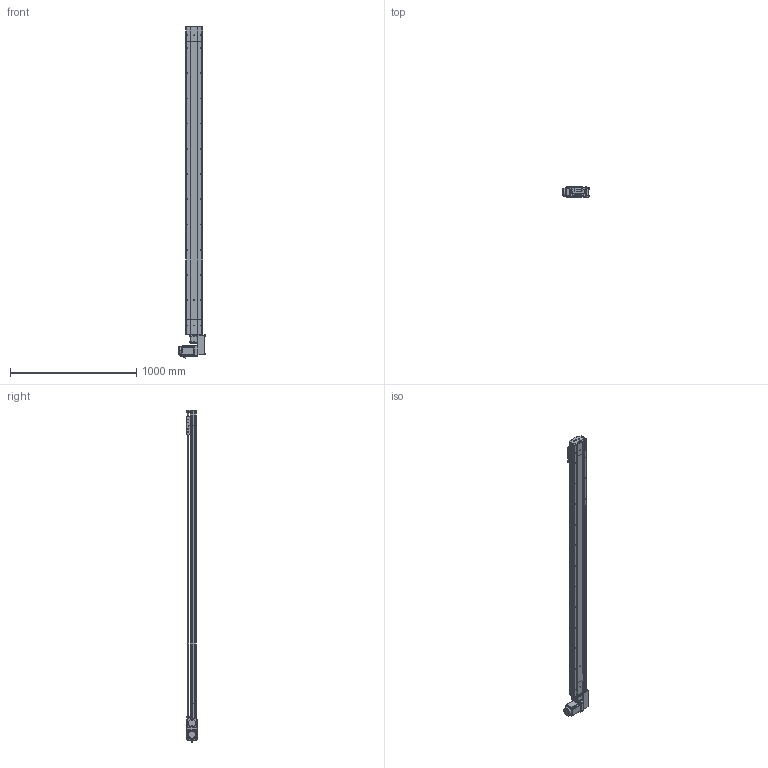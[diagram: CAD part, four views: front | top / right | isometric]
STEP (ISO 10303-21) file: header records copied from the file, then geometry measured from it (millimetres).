
FILE_DESCRIPTION (( 'STEP AP214' ), '1' );
FILE_NAME ('D14 TBH LH S2200.STEP', '2010-06-29T14:22:04', ( 'Conseil Régional Haute-Normandie' ), ( 'Conseil Régional Haute-Normandie' ), 'SwSTEP 2.0', 'SolidWorks 2010', '' );
FILE_SCHEMA (( 'AUTOMOTIVE_DESIGN' ));
Length unit declared in the file: millimetre
Products named in the file (39): Rail + couroie D14 Course 2200 ; corpl tail D14_Default; Tail D14B_Default; Arbre+rail tail D14; couvercle D14 course L2200_Default; tete d''axe haut D14; plaque de  bout tail D14_Default; couvercle D14_Default; vis M5 L8 90°_Default; Couroie_Default; renvoi LH_Default; vis M5 L16_Default; poulie tail_Default; Arbre+rail head D14; corp head D14_Default; avant 90BLDC100A-640; Moteur motionking 90BLDC100A-640; couvercle D14 head_Default; codeur 90BLDC100-640; corps 90BLDC100A-640; Cache arbre_Default; vis M5 L5_Default; couroie 2_Default; poulie head_Default; Conecteur_Default; Conecteur2_Default; Cache_Default; plaque de  bout head D14 LH_Default; Plaque racord D14_Default; D14 TB H LH_Default; guide D14; Vis M5 L16-2_Default; vis M5 L12_Default; chariot D14B_Default; Cvis M5 L70_Default; Chariot D14; corpl 2200_Default; D14 couroie L2200_Default; D14 TBH LH S2200
Assembly tree (68 placements, depth 4):
  D14 TBH LH S2200
    D14 TB H LH_Default
      poulie head_Default
      Cache_Default  x2
      vis M5 L12_Default  x12
      Cache arbre_Default
      Moteur motionking 90BLDC100A-640
        Conecteur_Default
        codeur 90BLDC100-640
        corps 90BLDC100A-640
        avant 90BLDC100A-640
        Conecteur2_Default
      corp head D14_Default
      Vis M5 L16-2_Default  x4
      Arbre+rail head D14
      couroie 2_Default
      Cvis M5 L70_Default  x4
      vis M5 L5_Default  x2
      Plaque racord D14_Default
      couvercle D14 head_Default
      renvoi LH_Default
      plaque de  bout head D14 LH_Default
    chariot D14B_Default
      guide D14  x2
      vis M5 L12_Default  x4
      Chariot D14
    D14 couroie L2200_Default
      Rail + couroie D14 Course 2200 
      corpl 2200_Default
      couvercle D14 course L2200_Default
    Tail D14B_Default
      tete d''axe haut D14
      poulie tail_Default
      vis M5 L16_Default  x2
      vis M5 L12_Default  x4
      vis M5 L8 90°_Default  x2
      corpl tail D14_Default
      Couroie_Default
      plaque de  bout tail D14_Default
      couvercle D14_Default
      Arbre+rail tail D14
Bounding box: 207.2 x 85.9 x 2632.45 mm (x, y, z)
Volume: 9732372.1 mm3; surface area: 3457832.2 mm2
Topology: 92 solids, 92 shells, 2709 faces, 6611 edges, 4266 vertices
Faces by surface type: plane 1609, cylinder 787, bspline 136, torus 89, cone 84, sphere 4
Entity records: 81512 total; most frequent: CARTESIAN_POINT 23925, ORIENTED_EDGE 10082, DIRECTION 9956, EDGE_CURVE 5041, VECTOR 3334, LINE 3334, VERTEX_POINT 3316, AXIS2_PLACEMENT_3D 3311
